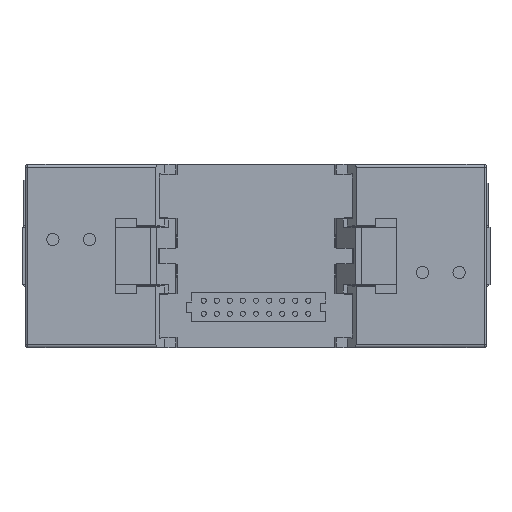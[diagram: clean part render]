
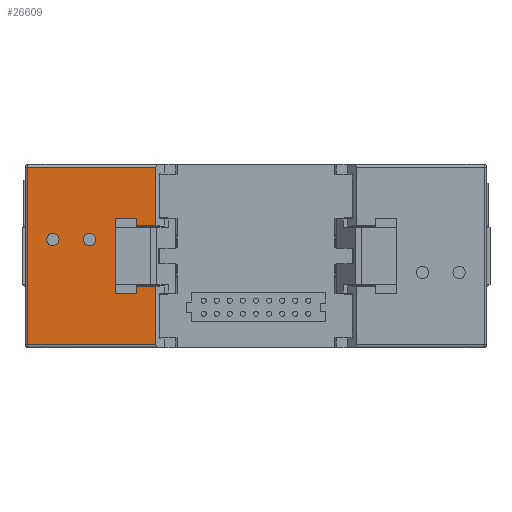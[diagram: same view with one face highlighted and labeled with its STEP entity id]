
A CAD part, front view. The second image highlights one B-rep face of the part: STEP entity #26609.
In plain terms, the highlighted planar face has unit normal (0, -1, 0).
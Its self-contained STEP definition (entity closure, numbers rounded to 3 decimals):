
#23 = DIRECTION ( 'NONE',  ( 0., 0., -1. ) ) ;
#451 = DIRECTION ( 'NONE',  ( 0., 0., 1. ) ) ;
#1019 = LINE ( 'NONE', #26178, #28562 ) ;
#1901 = ORIENTED_EDGE ( 'NONE', *, *, #30229, .T. ) ;
#2013 = ORIENTED_EDGE ( 'NONE', *, *, #34410, .T. ) ;
#2447 = VERTEX_POINT ( 'NONE', #25566 ) ;
#2642 = LINE ( 'NONE', #20452, #42323 ) ;
#3226 = AXIS2_PLACEMENT_3D ( 'NONE', #56748, #25923, #61960 ) ;
#3930 = VECTOR ( 'NONE', #65538, 1000. ) ;
#4088 = ORIENTED_EDGE ( 'NONE', *, *, #49788, .T. ) ;
#5065 = CARTESIAN_POINT ( 'NONE',  ( -39.25, -6., 24.1 ) ) ;
#5067 = VECTOR ( 'NONE', #15009, 1000. ) ;
#5561 = ORIENTED_EDGE ( 'NONE', *, *, #61467, .T. ) ;
#7382 = AXIS2_PLACEMENT_3D ( 'NONE', #61883, #31083, #23 ) ;
#8013 = CARTESIAN_POINT ( 'NONE',  ( -40.542, -6., 2.4 ) ) ;
#8903 = EDGE_CURVE ( 'NONE', #32689, #18261, #21076, .T. ) ;
#9304 = CARTESIAN_POINT ( 'NONE',  ( -22.904, -6., 13.854 ) ) ;
#9671 = VECTOR ( 'NONE', #55782, 1000. ) ;
#10523 = LINE ( 'NONE', #65976, #58950 ) ;
#11315 = ORIENTED_EDGE ( 'NONE', *, *, #65964, .T. ) ;
#12125 = CARTESIAN_POINT ( 'NONE',  ( -39.25, -6., 22.9 ) ) ;
#12162 = VERTEX_POINT ( 'NONE', #32844 ) ;
#12493 = CARTESIAN_POINT ( 'NONE',  ( -19.2, -6., 37. ) ) ;
#12974 = DIRECTION ( 'NONE',  ( 1., 0., 0. ) ) ;
#13090 = CIRCLE ( 'NONE', #54475, 1.2 ) ;
#13175 = CARTESIAN_POINT ( 'NONE',  ( -22.904, -6., 25.546 ) ) ;
#13532 = CARTESIAN_POINT ( 'NONE',  ( -22.904, -6., 13.9 ) ) ;
#13848 = LINE ( 'NONE', #49452, #53460 ) ;
#14429 = EDGE_CURVE ( 'NONE', #12162, #56039, #49341, .T. ) ;
#14741 = FACE_BOUND ( 'NONE', #39700, .T. ) ;
#15009 = DIRECTION ( 'NONE',  ( 1., 0., 0. ) ) ;
#15308 = LINE ( 'NONE', #13532, #41256 ) ;
#15450 = EDGE_LOOP ( 'NONE', ( #26032, #23576 ) ) ;
#16572 = VERTEX_POINT ( 'NONE', #5065 ) ;
#16751 = ORIENTED_EDGE ( 'NONE', *, *, #14429, .T. ) ;
#17329 = DIRECTION ( 'NONE',  ( 0., 0., -1. ) ) ;
#17594 = EDGE_CURVE ( 'NONE', #16572, #47762, #31281, .T. ) ;
#18199 = VECTOR ( 'NONE', #12974, 1000. ) ;
#18261 = VERTEX_POINT ( 'NONE', #52048 ) ;
#18336 = ORIENTED_EDGE ( 'NONE', *, *, #55844, .T. ) ;
#18457 = CARTESIAN_POINT ( 'NONE',  ( -22.904, -6., 12.346 ) ) ;
#18764 = VECTOR ( 'NONE', #34566, 1000. ) ;
#18848 = VERTEX_POINT ( 'NONE', #62071 ) ;
#19112 = CARTESIAN_POINT ( 'NONE',  ( -32.15, -6., 22.9 ) ) ;
#19730 = CARTESIAN_POINT ( 'NONE',  ( -19.2, -6., 35.539 ) ) ;
#19842 = LINE ( 'NONE', #8013, #18199 ) ;
#20249 = CARTESIAN_POINT ( 'NONE',  ( -40.542, -6., 25.546 ) ) ;
#20452 = CARTESIAN_POINT ( 'NONE',  ( -22.904, -6., 35.539 ) ) ;
#21065 = CARTESIAN_POINT ( 'NONE',  ( -19.2, -6., 35.539 ) ) ;
#21076 = LINE ( 'NONE', #21065, #58933 ) ;
#21688 = LINE ( 'NONE', #41160, #61193 ) ;
#22104 = EDGE_CURVE ( 'NONE', #2447, #37575, #21688, .T. ) ;
#23576 = ORIENTED_EDGE ( 'NONE', *, *, #17594, .T. ) ;
#24308 = DIRECTION ( 'NONE',  ( 0., 0., 1. ) ) ;
#25148 = AXIS2_PLACEMENT_3D ( 'NONE', #12125, #48332, #17329 ) ;
#25566 = CARTESIAN_POINT ( 'NONE',  ( -22.904, -6., 27.049 ) ) ;
#25773 = DIRECTION ( 'NONE',  ( -1., 0., 0. ) ) ;
#25923 = DIRECTION ( 'NONE',  ( 0., 1., 0. ) ) ;
#26032 = ORIENTED_EDGE ( 'NONE', *, *, #58681, .T. ) ;
#26178 = CARTESIAN_POINT ( 'NONE',  ( -40.542, -6., 37. ) ) ;
#26609 = ADVANCED_FACE ( 'NONE', ( #40721, #14741, #42319 ), #46182, .T. ) ;
#26754 = VERTEX_POINT ( 'NONE', #27183 ) ;
#26823 = ORIENTED_EDGE ( 'NONE', *, *, #31839, .T. ) ;
#27183 = CARTESIAN_POINT ( 'NONE',  ( -32.15, -6., 24.1 ) ) ;
#27952 = AXIS2_PLACEMENT_3D ( 'NONE', #29169, #65181, #34425 ) ;
#28562 = VECTOR ( 'NONE', #62002, 1000. ) ;
#29169 = CARTESIAN_POINT ( 'NONE',  ( -39.25, -6., 22.9 ) ) ;
#30229 = EDGE_CURVE ( 'NONE', #56039, #53510, #1019, .T. ) ;
#30499 = ORIENTED_EDGE ( 'NONE', *, *, #53093, .T. ) ;
#31083 = DIRECTION ( 'NONE',  ( 0., -1., 0. ) ) ;
#31281 = CIRCLE ( 'NONE', #27952, 1.2 ) ;
#31839 = EDGE_CURVE ( 'NONE', #66276, #12162, #32641, .T. ) ;
#32289 = VERTEX_POINT ( 'NONE', #9304 ) ;
#32641 = LINE ( 'NONE', #20249, #5067 ) ;
#32689 = VERTEX_POINT ( 'NONE', #32853 ) ;
#32844 = CARTESIAN_POINT ( 'NONE',  ( -19.2, -6., 25.546 ) ) ;
#32853 = CARTESIAN_POINT ( 'NONE',  ( -19.2, -6., 2.4 ) ) ;
#33390 = CIRCLE ( 'NONE', #25148, 1.2 ) ;
#34410 = EDGE_CURVE ( 'NONE', #42190, #32689, #19842, .T. ) ;
#34425 = DIRECTION ( 'NONE',  ( 0., 0., -1. ) ) ;
#34445 = DIRECTION ( 'NONE',  ( 0., 0., -1. ) ) ;
#34566 = DIRECTION ( 'NONE',  ( 0., 0., 1. ) ) ;
#34756 = CARTESIAN_POINT ( 'NONE',  ( -40.542, -6., 13.854 ) ) ;
#36067 = EDGE_CURVE ( 'NONE', #18261, #32289, #45232, .T. ) ;
#37575 = VERTEX_POINT ( 'NONE', #49293 ) ;
#39700 = EDGE_LOOP ( 'NONE', ( #30499, #11315 ) ) ;
#39761 = CARTESIAN_POINT ( 'NONE',  ( -27.15, -6., 35.539 ) ) ;
#40721 = FACE_BOUND ( 'NONE', #15450, .T. ) ;
#41160 = CARTESIAN_POINT ( 'NONE',  ( 27.858, -6., 27.049 ) ) ;
#41256 = VECTOR ( 'NONE', #34445, 1000. ) ;
#41266 = DIRECTION ( 'NONE',  ( 0., 0., -1. ) ) ;
#42190 = VERTEX_POINT ( 'NONE', #61446 ) ;
#42319 = FACE_OUTER_BOUND ( 'NONE', #65492, .T. ) ;
#42323 = VECTOR ( 'NONE', #41266, 1000. ) ;
#42625 = CIRCLE ( 'NONE', #3226, 1.2 ) ;
#43978 = EDGE_CURVE ( 'NONE', #52941, #58821, #10523, .T. ) ;
#44347 = ORIENTED_EDGE ( 'NONE', *, *, #58819, .T. ) ;
#44662 = ORIENTED_EDGE ( 'NONE', *, *, #36067, .T. ) ;
#45232 = LINE ( 'NONE', #34756, #3930 ) ;
#46182 = PLANE ( 'NONE',  #7382 ) ;
#47762 = VERTEX_POINT ( 'NONE', #52793 ) ;
#47912 = LINE ( 'NONE', #39761, #18764 ) ;
#48332 = DIRECTION ( 'NONE',  ( 0., 1., 0. ) ) ;
#49188 = CARTESIAN_POINT ( 'NONE',  ( -27.15, -6., 12.346 ) ) ;
#49293 = CARTESIAN_POINT ( 'NONE',  ( -27.15, -6., 27.049 ) ) ;
#49341 = LINE ( 'NONE', #19730, #9671 ) ;
#49452 = CARTESIAN_POINT ( 'NONE',  ( -44.1, -6., 35.539 ) ) ;
#49788 = EDGE_CURVE ( 'NONE', #52941, #37575, #47912, .T. ) ;
#50600 = ORIENTED_EDGE ( 'NONE', *, *, #22104, .F. ) ;
#52048 = CARTESIAN_POINT ( 'NONE',  ( -19.2, -6., 13.854 ) ) ;
#52793 = CARTESIAN_POINT ( 'NONE',  ( -39.25, -6., 21.7 ) ) ;
#52941 = VERTEX_POINT ( 'NONE', #49188 ) ;
#53093 = EDGE_CURVE ( 'NONE', #26754, #18848, #13090, .T. ) ;
#53460 = VECTOR ( 'NONE', #54577, 1000. ) ;
#53510 = VERTEX_POINT ( 'NONE', #58286 ) ;
#54475 = AXIS2_PLACEMENT_3D ( 'NONE', #19112, #55182, #24308 ) ;
#54577 = DIRECTION ( 'NONE',  ( 0., 0., -1. ) ) ;
#55182 = DIRECTION ( 'NONE',  ( 0., 1., 0. ) ) ;
#55782 = DIRECTION ( 'NONE',  ( 0., 0., 1. ) ) ;
#55844 = EDGE_CURVE ( 'NONE', #2447, #66276, #2642, .T. ) ;
#56039 = VERTEX_POINT ( 'NONE', #12493 ) ;
#56748 = CARTESIAN_POINT ( 'NONE',  ( -32.15, -6., 22.9 ) ) ;
#58286 = CARTESIAN_POINT ( 'NONE',  ( -44.1, -6., 37. ) ) ;
#58681 = EDGE_CURVE ( 'NONE', #47762, #16572, #33390, .T. ) ;
#58819 = EDGE_CURVE ( 'NONE', #53510, #42190, #13848, .T. ) ;
#58821 = VERTEX_POINT ( 'NONE', #18457 ) ;
#58933 = VECTOR ( 'NONE', #451, 1000. ) ;
#58950 = VECTOR ( 'NONE', #61215, 1000. ) ;
#59839 = ORIENTED_EDGE ( 'NONE', *, *, #43978, .F. ) ;
#60556 = ORIENTED_EDGE ( 'NONE', *, *, #8903, .T. ) ;
#61193 = VECTOR ( 'NONE', #25773, 1000. ) ;
#61215 = DIRECTION ( 'NONE',  ( 1., 0., 0. ) ) ;
#61446 = CARTESIAN_POINT ( 'NONE',  ( -44.1, -6., 2.4 ) ) ;
#61467 = EDGE_CURVE ( 'NONE', #32289, #58821, #15308, .T. ) ;
#61883 = CARTESIAN_POINT ( 'NONE',  ( -40.542, -6., 35.539 ) ) ;
#61960 = DIRECTION ( 'NONE',  ( 0., 0., 1. ) ) ;
#62002 = DIRECTION ( 'NONE',  ( -1., 0., 0. ) ) ;
#62071 = CARTESIAN_POINT ( 'NONE',  ( -32.15, -6., 21.7 ) ) ;
#65181 = DIRECTION ( 'NONE',  ( 0., 1., 0. ) ) ;
#65492 = EDGE_LOOP ( 'NONE', ( #18336, #26823, #16751, #1901, #44347, #2013, #60556, #44662, #5561, #59839, #4088, #50600 ) ) ;
#65538 = DIRECTION ( 'NONE',  ( -1., 0., 0. ) ) ;
#65964 = EDGE_CURVE ( 'NONE', #18848, #26754, #42625, .T. ) ;
#65976 = CARTESIAN_POINT ( 'NONE',  ( 29.809, -6., 12.346 ) ) ;
#66276 = VERTEX_POINT ( 'NONE', #13175 ) ;
